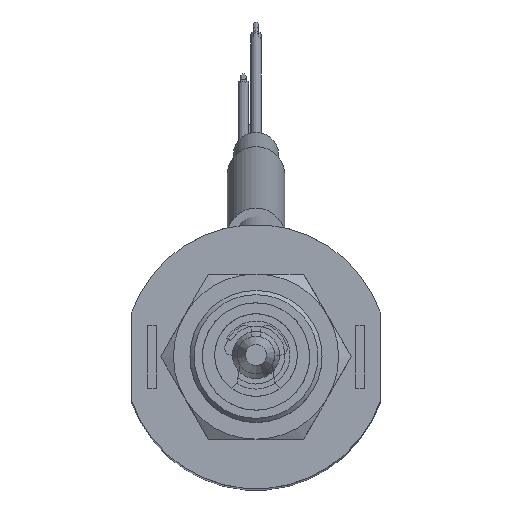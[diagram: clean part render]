
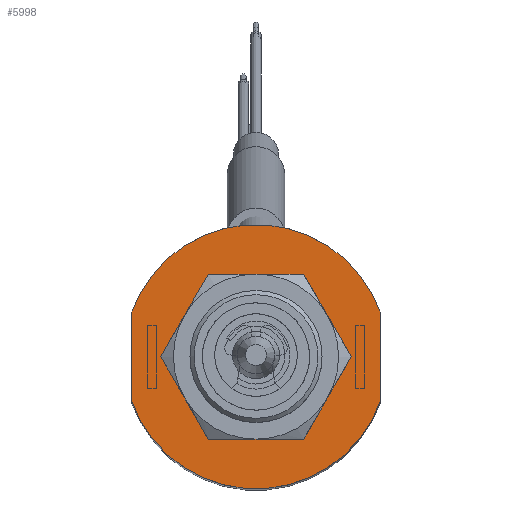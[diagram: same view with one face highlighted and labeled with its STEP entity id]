
A CAD part, top view. The second image highlights one B-rep face of the part: STEP entity #5998.
In plain terms, the highlighted planar face has unit normal (0, 0, 1).
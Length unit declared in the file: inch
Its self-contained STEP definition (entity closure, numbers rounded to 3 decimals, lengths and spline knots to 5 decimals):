
#350=FACE_BOUND('',#1041,.T.);
#444=PLANE('',#6721);
#664=FACE_OUTER_BOUND('',#1040,.T.);
#1040=EDGE_LOOP('',(#4339,#4340,#4341,#4342));
#1041=EDGE_LOOP('',(#4343,#4344));
#1425=LINE('',#9527,#1783);
#1428=LINE('',#9534,#1786);
#1783=VECTOR('',#7819,0.3937);
#1786=VECTOR('',#7828,0.3937);
#2125=CIRCLE('',#6709,0.17717);
#2126=CIRCLE('',#6710,0.17717);
#2130=CIRCLE('',#6716,0.31496);
#2131=CIRCLE('',#6719,0.31496);
#2529=VERTEX_POINT('',#9503);
#2530=VERTEX_POINT('',#9504);
#2536=VERTEX_POINT('',#9520);
#2537=VERTEX_POINT('',#9522);
#2538=VERTEX_POINT('',#9526);
#2539=VERTEX_POINT('',#9530);
#3192=EDGE_CURVE('',#2529,#2530,#2125,.T.);
#3193=EDGE_CURVE('',#2530,#2529,#2126,.T.);
#3201=EDGE_CURVE('',#2537,#2536,#2130,.T.);
#3203=EDGE_CURVE('',#2538,#2537,#1425,.T.);
#3205=EDGE_CURVE('',#2539,#2538,#2131,.T.);
#3207=EDGE_CURVE('',#2536,#2539,#1428,.T.);
#4339=ORIENTED_EDGE('',*,*,#3207,.T.);
#4340=ORIENTED_EDGE('',*,*,#3205,.T.);
#4341=ORIENTED_EDGE('',*,*,#3203,.T.);
#4342=ORIENTED_EDGE('',*,*,#3201,.T.);
#4343=ORIENTED_EDGE('',*,*,#3192,.T.);
#4344=ORIENTED_EDGE('',*,*,#3193,.T.);
#5998=ADVANCED_FACE('',(#664,#350),#444,.T.);
#6709=AXIS2_PLACEMENT_3D('',#9505,#7796,#7797);
#6710=AXIS2_PLACEMENT_3D('',#9506,#7798,#7799);
#6716=AXIS2_PLACEMENT_3D('',#9523,#7814,#7815);
#6719=AXIS2_PLACEMENT_3D('',#9531,#7823,#7824);
#6721=AXIS2_PLACEMENT_3D('',#9535,#7829,#7830);
#7796=DIRECTION('center_axis',(0.,0.,
-1.));
#7797=DIRECTION('ref_axis',(1.,0.,0.));
#7798=DIRECTION('center_axis',(0.,0.,
-1.));
#7799=DIRECTION('ref_axis',(1.,0.,0.));
#7814=DIRECTION('center_axis',(0.,0.,
1.));
#7815=DIRECTION('ref_axis',(-0.944,-0.331,0.));
#7819=DIRECTION('',(0.,-1.,0.));
#7823=DIRECTION('center_axis',(0.,0.,
1.));
#7824=DIRECTION('ref_axis',(0.944,0.331,0.));
#7828=DIRECTION('',(0.,1.,0.));
#7829=DIRECTION('center_axis',(0.,0.,
1.));
#7830=DIRECTION('ref_axis',(1.,0.,0.));
#9503=CARTESIAN_POINT('',(0.17717,0.,1.12205));
#9504=CARTESIAN_POINT('',(-0.17717,0.,1.12205));
#9505=CARTESIAN_POINT('Origin',(0.,0.,
1.12205));
#9506=CARTESIAN_POINT('Origin',(0.,0.,
1.12205));
#9520=CARTESIAN_POINT('',(0.29724,-0.10414,1.12205));
#9522=CARTESIAN_POINT('',(-0.29724,-0.10414,1.12205));
#9523=CARTESIAN_POINT('Origin',(0.,0.,
1.12205));
#9526=CARTESIAN_POINT('',(-0.29724,0.10414,1.12205));
#9527=CARTESIAN_POINT('',(-0.29724,0.10414,1.12205));
#9530=CARTESIAN_POINT('',(0.29724,0.10414,1.12205));
#9531=CARTESIAN_POINT('Origin',(0.,0.,
1.12205));
#9534=CARTESIAN_POINT('',(0.29724,-0.10414,1.12205));
#9535=CARTESIAN_POINT('Origin',(0.,0.,
1.12205));
